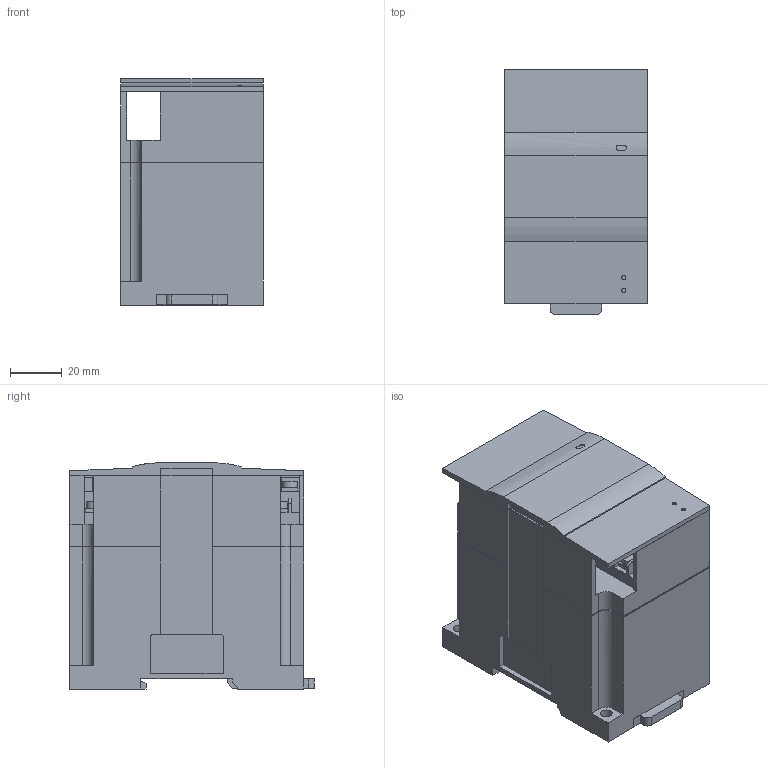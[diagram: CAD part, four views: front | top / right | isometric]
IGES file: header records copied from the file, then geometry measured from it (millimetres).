
Global section: file name: V:\FX3U\FX3U-4DA\fx3u-4da.igs; preprocessor: I-DEAS 3D IGES Translator 15; date: 20140626.160925; units: millimetre
Bounding box: 55 x 94 x 87 mm (x, y, z)
Volume: 367856.1 mm3; surface area: 54328 mm2
Topology: 3 solids, 3 shells, 378 faces, 1000 edges, 668 vertices
Faces by surface type: bspline 378
